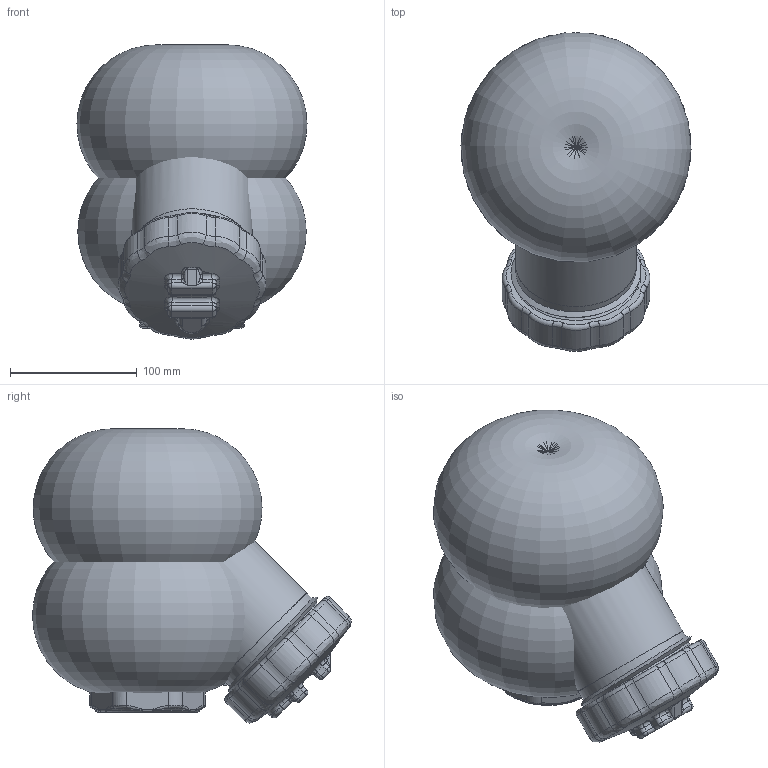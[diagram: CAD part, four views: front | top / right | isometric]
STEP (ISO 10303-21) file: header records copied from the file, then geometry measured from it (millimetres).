
FILE_DESCRIPTION(/* description */ ('Alibre Inc.'),/* implementation_level */ '2;1');
FILE_NAME(/* name */ 'export0',/* time_stamp */ '2016-05-11T13:52:36-04:00',/* author */ (''),/* organization */ (''),/* preprocessor_version */ 'ST-DEVELOPER v14',/* originating_system */ 'Alibre',/* authorisation */ '');
FILE_SCHEMA (('AUTOMOTIVE_DESIGN'));
Length unit declared in the file: centimetre
Bounding box: 181.83 x 252.05 x 232.5 mm (x, y, z)
Volume: 1691062.6 mm3; surface area: 723805.6 mm2
Topology: 6 solids, 6 shells, 505 faces, 1204 edges, 690 vertices
Faces by surface type: cylinder 145, bspline 134, torus 99, plane 81, cone 23, sphere 23
Full cylindrical faces by diameter (mm): 41.91 x1, 44.45 x1, 47.752 x1, 48.26 x1, 50.8 x1, 56.337 x2, 56.388 x17, 57.15 x2, 66.04 x1, 67.818 x1, 68.326 x2, 69.088 x2, 69.85 x3, 70.612 x1, 82.55 x1, 83.109 x1, 88.392 x1, 95.25 x1, 95.26 x4, 100.584 x2
Entity records: 55447 total; most frequent: CARTESIAN_POINT 46157, ORIENTED_EDGE 2054, DIRECTION 1565, EDGE_CURVE 1027, AXIS2_PLACEMENT_3D 759, VERTEX_POINT 610, EDGE_LOOP 529, FACE_BOUND 529
